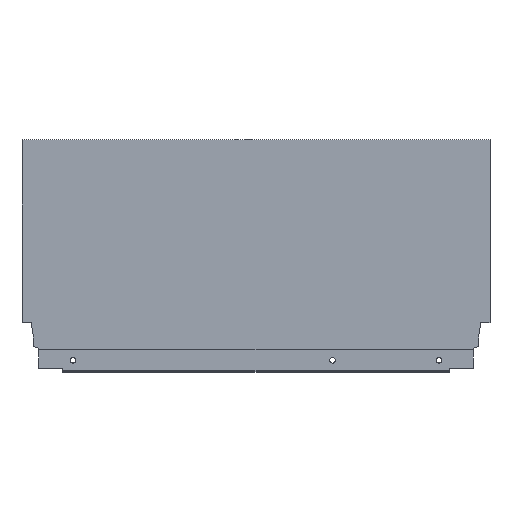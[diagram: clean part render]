
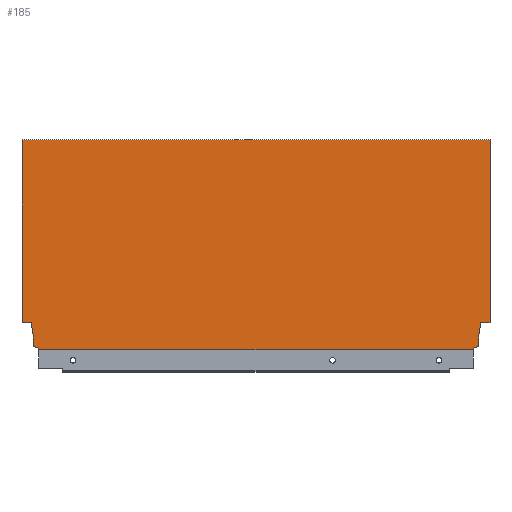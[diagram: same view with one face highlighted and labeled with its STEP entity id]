
A CAD part, top view. The second image highlights one B-rep face of the part: STEP entity #185.
In plain terms, the highlighted planar face has unit normal (0, 0, 1).
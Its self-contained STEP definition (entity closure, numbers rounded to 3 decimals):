
#115 = EDGE_CURVE ( 'NONE', #769, #658, #1206, .T. ) ;
#118 = EDGE_CURVE ( 'NONE', #769, #774, #1199, .T. ) ;
#119 = EDGE_CURVE ( 'NONE', #687, #676, #1201, .T. ) ;
#120 = EDGE_CURVE ( 'NONE', #693, #687, #1203, .T. ) ;
#121 = EDGE_CURVE ( 'NONE', #737, #693, #1202, .T. ) ;
#122 = EDGE_CURVE ( 'NONE', #658, #737, #1196, .T. ) ;
#123 = EDGE_CURVE ( 'NONE', #780, #774, #1194, .T. ) ;
#124 = EDGE_CURVE ( 'NONE', #751, #676, #1187, .T. ) ;
#125 = EDGE_CURVE ( 'NONE', #689, #780, #1185, .T. ) ;
#126 = EDGE_CURVE ( 'NONE', #645, #689, #1192, .T. ) ;
#127 = EDGE_CURVE ( 'NONE', #685, #744, #1190, .T. ) ;
#128 = EDGE_CURVE ( 'NONE', #679, #645, #1188, .T. ) ;
#130 = EDGE_CURVE ( 'NONE', #744, #679, #1180, .T. ) ;
#132 = EDGE_CURVE ( 'NONE', #751, #685, #1176, .T. ) ;
#185 = ADVANCED_FACE ( 'NONE', ( #1070 ), #828, .T. ) ;
#297 = AXIS2_PLACEMENT_3D ( 'NONE', #831, #843, #842 ) ;
#359 = CARTESIAN_POINT ( 'NONE',  ( -358.1, 10.765, 7.5 ) ) ;
#361 = CARTESIAN_POINT ( 'NONE',  ( -8.9, 2.64, 7.5 ) ) ;
#362 = CARTESIAN_POINT ( 'NONE',  ( -359.94, 21.2, 7.5 ) ) ;
#363 = CARTESIAN_POINT ( 'NONE',  ( 0., 164.7, 7.5 ) ) ;
#372 = CARTESIAN_POINT ( 'NONE',  ( -353.996, 0., 7.5 ) ) ;
#373 = CARTESIAN_POINT ( 'NONE',  ( 0., 21.2, 7.5 ) ) ;
#376 = CARTESIAN_POINT ( 'NONE',  ( -367., 164.7, 7.5 ) ) ;
#378 = CARTESIAN_POINT ( 'NONE',  ( -358.1, 2.64, 7.5 ) ) ;
#382 = CARTESIAN_POINT ( 'NONE',  ( -13.004, 0., 7.5 ) ) ;
#401 = CARTESIAN_POINT ( 'NONE',  ( -13.004, 1.146, 7.5 ) ) ;
#424 = CARTESIAN_POINT ( 'NONE',  ( -7.06, 21.2, 7.5 ) ) ;
#488 = CARTESIAN_POINT ( 'NONE',  ( -8.9, 10.765, 7.5 ) ) ;
#501 = CARTESIAN_POINT ( 'NONE',  ( -353.996, 1.146, 7.5 ) ) ;
#528 = CARTESIAN_POINT ( 'NONE',  ( -367., 21.2, 7.5 ) ) ;
#573 = CARTESIAN_POINT ( 'NONE',  ( -353.996, 1.146, 7.5 ) ) ;
#592 = CARTESIAN_POINT ( 'NONE',  ( -372., 21.2, 7.5 ) ) ;
#600 = DIRECTION ( 'NONE',  ( 0., 1., 0. ) ) ;
#630 = CARTESIAN_POINT ( 'NONE',  ( -367., 0., 7.5 ) ) ;
#634 = DIRECTION ( 'NONE',  ( 1., 0., 0. ) ) ;
#638 = CARTESIAN_POINT ( 'NONE',  ( -359.94, 21.2, 7.5 ) ) ;
#643 = DIRECTION ( 'NONE',  ( -1., 0., 0. ) ) ;
#645 = VERTEX_POINT ( 'NONE', #488 ) ;
#658 = VERTEX_POINT ( 'NONE', #501 ) ;
#676 = VERTEX_POINT ( 'NONE', #528 ) ;
#679 = VERTEX_POINT ( 'NONE', #424 ) ;
#685 = VERTEX_POINT ( 'NONE', #363 ) ;
#687 = VERTEX_POINT ( 'NONE', #362 ) ;
#689 = VERTEX_POINT ( 'NONE', #361 ) ;
#693 = VERTEX_POINT ( 'NONE', #359 ) ;
#737 = VERTEX_POINT ( 'NONE', #378 ) ;
#744 = VERTEX_POINT ( 'NONE', #373 ) ;
#751 = VERTEX_POINT ( 'NONE', #376 ) ;
#769 = VERTEX_POINT ( 'NONE', #372 ) ;
#774 = VERTEX_POINT ( 'NONE', #382 ) ;
#780 = VERTEX_POINT ( 'NONE', #401 ) ;
#828 = PLANE ( 'NONE',  #297 ) ;
#831 = CARTESIAN_POINT ( 'NONE',  ( -367., 0., 7.5 ) ) ;
#842 = DIRECTION ( 'NONE',  ( 1., 0., 0. ) ) ;
#843 = DIRECTION ( 'NONE',  ( 0., 0., 1. ) ) ;
#952 = CARTESIAN_POINT ( 'NONE',  ( -367., 0., 7.5 ) ) ;
#953 = DIRECTION ( 'NONE',  ( 0., -1., 0. ) ) ;
#954 = DIRECTION ( 'NONE',  ( -0.94, -0.342, 0. ) ) ;
#955 = CARTESIAN_POINT ( 'NONE',  ( -8.9, 2.64, 7.5 ) ) ;
#956 = DIRECTION ( 'NONE',  ( 0., -1., 0. ) ) ;
#957 = CARTESIAN_POINT ( 'NONE',  ( -7.06, 21.2, 7.5 ) ) ;
#958 = DIRECTION ( 'NONE',  ( 0., -1., 0. ) ) ;
#959 = CARTESIAN_POINT ( 'NONE',  ( 0., 0., 7.5 ) ) ;
#961 = DIRECTION ( 'NONE',  ( 0., -1., 0. ) ) ;
#962 = CARTESIAN_POINT ( 'NONE',  ( 0., 21.2, 7.5 ) ) ;
#963 = DIRECTION ( 'NONE',  ( -0.174, -0.985, 0. ) ) ;
#966 = CARTESIAN_POINT ( 'NONE',  ( -367., 164.7, 7.5 ) ) ;
#967 = DIRECTION ( 'NONE',  ( -1., 0., 0. ) ) ;
#971 = DIRECTION ( 'NONE',  ( 1., 0., 0. ) ) ;
#982 = CARTESIAN_POINT ( 'NONE',  ( -8.9, 10.765, 7.5 ) ) ;
#983 = DIRECTION ( 'NONE',  ( -0.94, 0.342, 0. ) ) ;
#984 = CARTESIAN_POINT ( 'NONE',  ( -358.1, 2.64, 7.5 ) ) ;
#985 = DIRECTION ( 'NONE',  ( -0.174, 0.985, 0. ) ) ;
#986 = CARTESIAN_POINT ( 'NONE',  ( -13.004, 1.146, 7.5 ) ) ;
#987 = DIRECTION ( 'NONE',  ( 0., 1., 0. ) ) ;
#989 = CARTESIAN_POINT ( 'NONE',  ( -358.1, 10.765, 7.5 ) ) ;
#1070 = FACE_OUTER_BOUND ( 'NONE', #1299, .T. ) ;
#1171 = VECTOR ( 'NONE', #971, 1000. ) ;
#1175 = VECTOR ( 'NONE', #967, 1000. ) ;
#1176 = LINE ( 'NONE', #966, #1171 ) ;
#1179 = VECTOR ( 'NONE', #963, 1000. ) ;
#1180 = LINE ( 'NONE', #962, #1175 ) ;
#1181 = VECTOR ( 'NONE', #961, 1000. ) ;
#1183 = VECTOR ( 'NONE', #958, 1000. ) ;
#1184 = VECTOR ( 'NONE', #954, 1000. ) ;
#1185 = LINE ( 'NONE', #955, #1184 ) ;
#1186 = VECTOR ( 'NONE', #956, 1000. ) ;
#1187 = LINE ( 'NONE', #952, #1186 ) ;
#1188 = LINE ( 'NONE', #957, #1179 ) ;
#1189 = VECTOR ( 'NONE', #953, 1000. ) ;
#1190 = LINE ( 'NONE', #959, #1181 ) ;
#1191 = VECTOR ( 'NONE', #983, 1000. ) ;
#1192 = LINE ( 'NONE', #982, #1183 ) ;
#1193 = VECTOR ( 'NONE', #987, 1000. ) ;
#1194 = LINE ( 'NONE', #986, #1189 ) ;
#1195 = VECTOR ( 'NONE', #985, 1000. ) ;
#1196 = LINE ( 'NONE', #984, #1191 ) ;
#1197 = VECTOR ( 'NONE', #643, 1000. ) ;
#1198 = VECTOR ( 'NONE', #634, 1000. ) ;
#1199 = LINE ( 'NONE', #630, #1198 ) ;
#1201 = LINE ( 'NONE', #592, #1197 ) ;
#1202 = LINE ( 'NONE', #989, #1193 ) ;
#1203 = LINE ( 'NONE', #638, #1195 ) ;
#1204 = VECTOR ( 'NONE', #600, 1000. ) ;
#1206 = LINE ( 'NONE', #573, #1204 ) ;
#1246 = ORIENTED_EDGE ( 'NONE', *, *, #128, .F. ) ;
#1299 = EDGE_LOOP ( 'NONE', ( #1346, #1347, #1348, #1349, #1351, #1352, #1353, #1354, #1355, #1356, #1246, #1357, #1358, #1359 ) ) ;
#1346 = ORIENTED_EDGE ( 'NONE', *, *, #124, .T. ) ;
#1347 = ORIENTED_EDGE ( 'NONE', *, *, #119, .F. ) ;
#1348 = ORIENTED_EDGE ( 'NONE', *, *, #120, .F. ) ;
#1349 = ORIENTED_EDGE ( 'NONE', *, *, #121, .F. ) ;
#1351 = ORIENTED_EDGE ( 'NONE', *, *, #122, .F. ) ;
#1352 = ORIENTED_EDGE ( 'NONE', *, *, #115, .F. ) ;
#1353 = ORIENTED_EDGE ( 'NONE', *, *, #118, .T. ) ;
#1354 = ORIENTED_EDGE ( 'NONE', *, *, #123, .F. ) ;
#1355 = ORIENTED_EDGE ( 'NONE', *, *, #125, .F. ) ;
#1356 = ORIENTED_EDGE ( 'NONE', *, *, #126, .F. ) ;
#1357 = ORIENTED_EDGE ( 'NONE', *, *, #130, .F. ) ;
#1358 = ORIENTED_EDGE ( 'NONE', *, *, #127, .F. ) ;
#1359 = ORIENTED_EDGE ( 'NONE', *, *, #132, .F. ) ;
